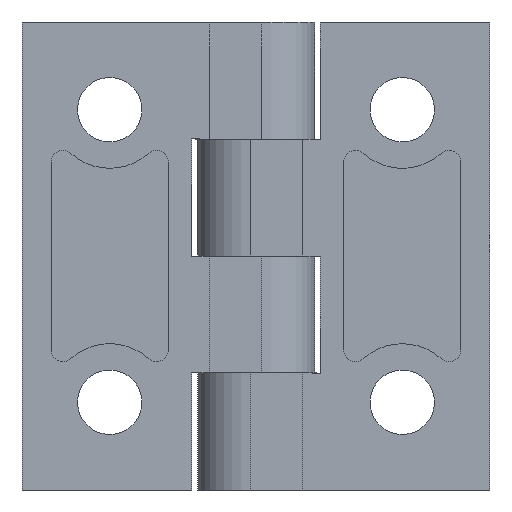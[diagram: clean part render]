
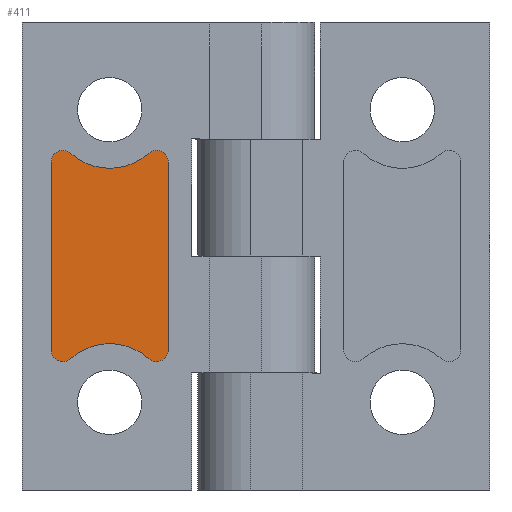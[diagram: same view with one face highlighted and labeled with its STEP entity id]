
A CAD part, front view. The second image highlights one B-rep face of the part: STEP entity #411.
In plain terms, the highlighted planar face has unit normal (0, -1, 0).
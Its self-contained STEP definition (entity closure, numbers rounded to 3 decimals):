
#16 = DIRECTION ( 'NONE',  ( 0., -1., 0. ) ) ;
#91 = DIRECTION ( 'NONE',  ( 0., 0., -1. ) ) ;
#138 = CARTESIAN_POINT ( 'NONE',  ( -8.5, -1.5, -8.028 ) ) ;
#141 = VERTEX_POINT ( 'NONE', #1587 ) ;
#355 = DIRECTION ( 'NONE',  ( 0., 0., -1. ) ) ;
#396 = VERTEX_POINT ( 'NONE', #2067 ) ;
#411 = ADVANCED_FACE ( 'NONE', ( #4182 ), #4767, .T. ) ;
#527 = DIRECTION ( 'NONE',  ( 0., 0., -1. ) ) ;
#539 = EDGE_CURVE ( 'NONE', #2591, #1559, #3829, .T. ) ;
#571 = CIRCLE ( 'NONE', #3270, 1. ) ;
#613 = CARTESIAN_POINT ( 'NONE',  ( -7.5, -1.5, 0. ) ) ;
#656 = CIRCLE ( 'NONE', #3526, 1. ) ;
#670 = DIRECTION ( 'NONE',  ( 0., 0., -1. ) ) ;
#746 = AXIS2_PLACEMENT_3D ( 'NONE', #4879, #4125, #91 ) ;
#765 = EDGE_CURVE ( 'NONE', #4986, #3737, #1283, .T. ) ;
#787 = CARTESIAN_POINT ( 'NONE',  ( -8.5, -1.5, -9.028 ) ) ;
#835 = DIRECTION ( 'NONE',  ( 0., -1., 0. ) ) ;
#860 = EDGE_CURVE ( 'NONE', #4934, #2073, #1817, .T. ) ;
#1120 = CARTESIAN_POINT ( 'NONE',  ( -16.5, -1.5, 8.028 ) ) ;
#1148 = CARTESIAN_POINT ( 'NONE',  ( -7.5, -1.5, -8.028 ) ) ;
#1270 = ORIENTED_EDGE ( 'NONE', *, *, #765, .T. ) ;
#1283 = LINE ( 'NONE', #613, #2062 ) ;
#1367 = EDGE_CURVE ( 'NONE', #2591, #396, #656, .T. ) ;
#1403 = EDGE_CURVE ( 'NONE', #396, #3893, #3886, .T. ) ;
#1504 = DIRECTION ( 'NONE',  ( 0., 0., -1. ) ) ;
#1552 = CARTESIAN_POINT ( 'NONE',  ( -17.5, -1.5, 0. ) ) ;
#1553 = ORIENTED_EDGE ( 'NONE', *, *, #3539, .F. ) ;
#1559 = VERTEX_POINT ( 'NONE', #2465 ) ;
#1587 = CARTESIAN_POINT ( 'NONE',  ( -15.833, -1.5, 8.773 ) ) ;
#1690 = CIRCLE ( 'NONE', #3434, 1. ) ;
#1692 = CARTESIAN_POINT ( 'NONE',  ( 0., -1.5, 0. ) ) ;
#1727 = CARTESIAN_POINT ( 'NONE',  ( -16.5, -1.5, -8.028 ) ) ;
#1764 = VECTOR ( 'NONE', #4253, 1000. ) ;
#1774 = DIRECTION ( 'NONE',  ( 0., -1., 0. ) ) ;
#1782 = CARTESIAN_POINT ( 'NONE',  ( -12.5, -1.5, 7.5 ) ) ;
#1817 = CIRCLE ( 'NONE', #746, 1. ) ;
#1832 = ORIENTED_EDGE ( 'NONE', *, *, #1367, .T. ) ;
#1844 = CARTESIAN_POINT ( 'NONE',  ( -12.5, -1.5, 12.5 ) ) ;
#1983 = AXIS2_PLACEMENT_3D ( 'NONE', #1692, #4391, #3616 ) ;
#2002 = EDGE_CURVE ( 'NONE', #2517, #3018, #2109, .T. ) ;
#2062 = VECTOR ( 'NONE', #3345, 1000. ) ;
#2067 = CARTESIAN_POINT ( 'NONE',  ( -16.5, -1.5, -9.028 ) ) ;
#2073 = VERTEX_POINT ( 'NONE', #787 ) ;
#2085 = DIRECTION ( 'NONE',  ( 0., 0., -1. ) ) ;
#2109 = CIRCLE ( 'NONE', #4255, 5. ) ;
#2189 = CARTESIAN_POINT ( 'NONE',  ( -9.167, -1.5, -8.773 ) ) ;
#2234 = CARTESIAN_POINT ( 'NONE',  ( -17.5, -1.5, -8.028 ) ) ;
#2355 = CIRCLE ( 'NONE', #4264, 5. ) ;
#2465 = CARTESIAN_POINT ( 'NONE',  ( -17.5, -1.5, 8.028 ) ) ;
#2517 = VERTEX_POINT ( 'NONE', #1782 ) ;
#2591 = VERTEX_POINT ( 'NONE', #2234 ) ;
#2637 = EDGE_LOOP ( 'NONE', ( #1553, #3827, #3135, #1832, #4129, #4926, #4919, #3900, #1270, #3933, #4063 ) ) ;
#2642 = CARTESIAN_POINT ( 'NONE',  ( -9.167, -1.5, 8.773 ) ) ;
#2834 = DIRECTION ( 'NONE',  ( 0., 0., -1. ) ) ;
#2896 = AXIS2_PLACEMENT_3D ( 'NONE', #138, #835, #355 ) ;
#2916 = CARTESIAN_POINT ( 'NONE',  ( -16.5, -1.5, -8.028 ) ) ;
#2970 = AXIS2_PLACEMENT_3D ( 'NONE', #3912, #16, #4684 ) ;
#3018 = VERTEX_POINT ( 'NONE', #2642 ) ;
#3112 = EDGE_CURVE ( 'NONE', #2073, #4986, #4047, .T. ) ;
#3135 = ORIENTED_EDGE ( 'NONE', *, *, #539, .F. ) ;
#3270 = AXIS2_PLACEMENT_3D ( 'NONE', #3625, #4412, #2085 ) ;
#3345 = DIRECTION ( 'NONE',  ( 0., 0., 1. ) ) ;
#3371 = CARTESIAN_POINT ( 'NONE',  ( -15.833, -1.5, -8.773 ) ) ;
#3434 = AXIS2_PLACEMENT_3D ( 'NONE', #1120, #3831, #1504 ) ;
#3523 = CIRCLE ( 'NONE', #2970, 5. ) ;
#3526 = AXIS2_PLACEMENT_3D ( 'NONE', #2916, #4067, #4443 ) ;
#3539 = EDGE_CURVE ( 'NONE', #141, #2517, #3523, .T. ) ;
#3616 = DIRECTION ( 'NONE',  ( 0., 0., -1. ) ) ;
#3625 = CARTESIAN_POINT ( 'NONE',  ( -8.5, -1.5, 8.028 ) ) ;
#3681 = CARTESIAN_POINT ( 'NONE',  ( -7.5, -1.5, 8.028 ) ) ;
#3683 = EDGE_CURVE ( 'NONE', #4934, #3893, #2355, .T. ) ;
#3734 = CARTESIAN_POINT ( 'NONE',  ( -12.5, -1.5, -12.5 ) ) ;
#3737 = VERTEX_POINT ( 'NONE', #3681 ) ;
#3785 = DIRECTION ( 'NONE',  ( 0., -1., 0. ) ) ;
#3827 = ORIENTED_EDGE ( 'NONE', *, *, #4428, .T. ) ;
#3829 = LINE ( 'NONE', #1552, #1764 ) ;
#3831 = DIRECTION ( 'NONE',  ( 0., -1., 0. ) ) ;
#3886 = CIRCLE ( 'NONE', #4795, 1. ) ;
#3893 = VERTEX_POINT ( 'NONE', #3371 ) ;
#3900 = ORIENTED_EDGE ( 'NONE', *, *, #3112, .T. ) ;
#3912 = CARTESIAN_POINT ( 'NONE',  ( -12.5, -1.5, 12.5 ) ) ;
#3933 = ORIENTED_EDGE ( 'NONE', *, *, #4130, .T. ) ;
#4047 = CIRCLE ( 'NONE', #2896, 1. ) ;
#4063 = ORIENTED_EDGE ( 'NONE', *, *, #2002, .F. ) ;
#4067 = DIRECTION ( 'NONE',  ( 0., -1., 0. ) ) ;
#4125 = DIRECTION ( 'NONE',  ( 0., -1., 0. ) ) ;
#4129 = ORIENTED_EDGE ( 'NONE', *, *, #1403, .T. ) ;
#4130 = EDGE_CURVE ( 'NONE', #3737, #3018, #571, .T. ) ;
#4182 = FACE_OUTER_BOUND ( 'NONE', #2637, .T. ) ;
#4253 = DIRECTION ( 'NONE',  ( 0., 0., 1. ) ) ;
#4255 = AXIS2_PLACEMENT_3D ( 'NONE', #1844, #3785, #670 ) ;
#4264 = AXIS2_PLACEMENT_3D ( 'NONE', #3734, #4507, #2834 ) ;
#4391 = DIRECTION ( 'NONE',  ( 0., -1., 0. ) ) ;
#4412 = DIRECTION ( 'NONE',  ( 0., -1., 0. ) ) ;
#4428 = EDGE_CURVE ( 'NONE', #141, #1559, #1690, .T. ) ;
#4443 = DIRECTION ( 'NONE',  ( 0., 0., -1. ) ) ;
#4507 = DIRECTION ( 'NONE',  ( 0., -1., 0. ) ) ;
#4684 = DIRECTION ( 'NONE',  ( 0., 0., -1. ) ) ;
#4767 = PLANE ( 'NONE',  #1983 ) ;
#4795 = AXIS2_PLACEMENT_3D ( 'NONE', #1727, #1774, #527 ) ;
#4879 = CARTESIAN_POINT ( 'NONE',  ( -8.5, -1.5, -8.028 ) ) ;
#4919 = ORIENTED_EDGE ( 'NONE', *, *, #860, .T. ) ;
#4926 = ORIENTED_EDGE ( 'NONE', *, *, #3683, .F. ) ;
#4934 = VERTEX_POINT ( 'NONE', #2189 ) ;
#4986 = VERTEX_POINT ( 'NONE', #1148 ) ;
